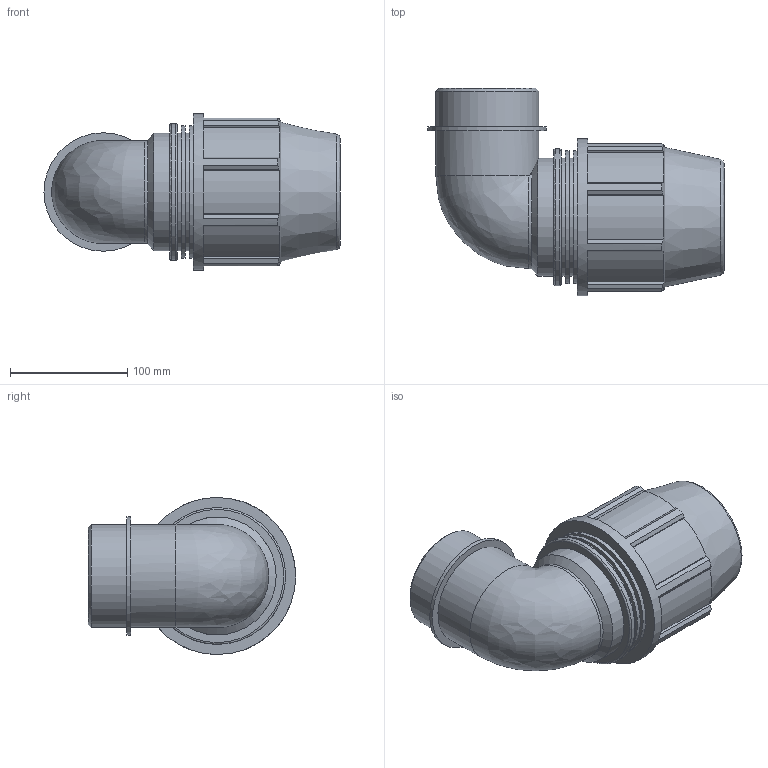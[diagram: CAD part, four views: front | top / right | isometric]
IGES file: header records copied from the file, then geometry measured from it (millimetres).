
Global section: file name: 0785060750300A.ipt; native system: Autodesk Inventor 2015; preprocessor: unknown; author: KIM; date: 20180325.201245; units: millimetre
Bounding box: 252.53 x 177 x 134 mm (x, y, z)
Volume: 1487052.3 mm3; surface area: 193263.9 mm2
Topology: 1 solids, 1 shells, 85 faces, 226 edges, 151 vertices
Faces by surface type: plane 52, cylinder 19, revolution 9, cone 4, bspline 1
Full cylindrical faces by diameter (mm): 87.884 x2, 100.5 x3, 101.067 x1, 113.083 x2, 116.58 x1, 134 x1
